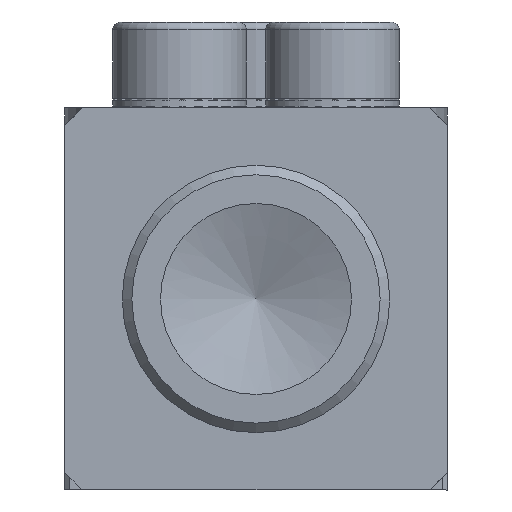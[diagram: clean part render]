
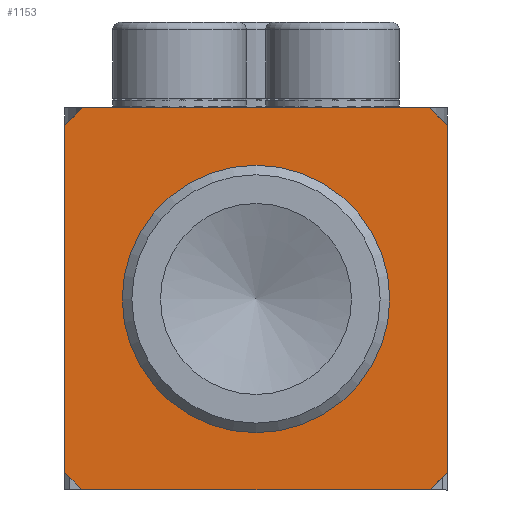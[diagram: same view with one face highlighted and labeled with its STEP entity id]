
A CAD part, left-side view. The second image highlights one B-rep face of the part: STEP entity #1153.
In plain terms, the highlighted planar face has unit normal (-1, 0, 0).
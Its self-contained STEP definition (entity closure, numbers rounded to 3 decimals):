
#1153=ADVANCED_FACE('',(#2059,#2060),#2061,.F.);
#2059=FACE_BOUND('',#2927,.T.);
#2060=FACE_OUTER_BOUND('',#2928,.T.);
#2061=PLANE('',#2929);
#2927=EDGE_LOOP('',(#5430));
#2928=EDGE_LOOP('',(#5431,#5432,#5433,#5434,#5435,#5436,#5437,#5438));
#2929=AXIS2_PLACEMENT_3D('',#5439,#5440,#5441);
#5430=ORIENTED_EDGE('',*,*,#6489,.F.);
#5431=ORIENTED_EDGE('',*,*,#6535,.F.);
#5432=ORIENTED_EDGE('',*,*,#6533,.F.);
#5433=ORIENTED_EDGE('',*,*,#6536,.F.);
#5434=ORIENTED_EDGE('',*,*,#6506,.F.);
#5435=ORIENTED_EDGE('',*,*,#6496,.F.);
#5436=ORIENTED_EDGE('',*,*,#6537,.T.);
#5437=ORIENTED_EDGE('',*,*,#6538,.F.);
#5438=ORIENTED_EDGE('',*,*,#6514,.T.);
#5439=CARTESIAN_POINT('',(0.0,-10.0,10.0));
#5440=DIRECTION('',(1.0,0.0,0.0));
#5441=DIRECTION('',(0.0,0.0,-1.0));
#6489=EDGE_CURVE('',#7973,#7973,#7974,.T.);
#6496=EDGE_CURVE('',#7984,#7978,#7986,.T.);
#6506=EDGE_CURVE('',#7978,#8003,#8004,.T.);
#6514=EDGE_CURVE('',#8009,#8014,#8016,.T.);
#6533=EDGE_CURVE('',#8045,#8043,#8047,.T.);
#6535=EDGE_CURVE('',#8043,#8014,#8049,.T.);
#6536=EDGE_CURVE('',#8003,#8045,#8050,.T.);
#6537=EDGE_CURVE('',#7984,#8051,#8052,.T.);
#6538=EDGE_CURVE('',#8009,#8051,#8053,.T.);
#7973=VERTEX_POINT('',#9948);
#7974=CIRCLE('',#9949,7.0);
#7978=VERTEX_POINT('',#9953);
#7984=VERTEX_POINT('',#9960);
#7986=CIRCLE('',#9963,13.5);
#8003=VERTEX_POINT('',#9997);
#8004=LINE('',#9998,#9999);
#8009=VERTEX_POINT('',#10006);
#8014=VERTEX_POINT('',#10014);
#8016=LINE('',#10017,#10018);
#8043=VERTEX_POINT('',#10052);
#8045=VERTEX_POINT('',#10055);
#8047=LINE('',#10058,#10059);
#8049=CIRCLE('',#10061,13.5);
#8050=CIRCLE('',#10062,13.5);
#8051=VERTEX_POINT('',#10063);
#8052=LINE('',#10064,#10065);
#8053=CIRCLE('',#10066,13.5);
#9948=CARTESIAN_POINT('',(0.0,-7.0,0.0));
#9949=AXIS2_PLACEMENT_3D('',#11264,#11265,#11266);
#9953=CARTESIAN_POINT('',(0.0,-10.0,9.069));
#9960=CARTESIAN_POINT('',(0.0,-9.069,10.0));
#9963=AXIS2_PLACEMENT_3D('',#11275,#11276,#11277);
#9997=CARTESIAN_POINT('',(0.0,-10.0,-9.069));
#9998=CARTESIAN_POINT('',(0.0,-10.0,10.0));
#9999=VECTOR('',#11287,1.0);
#10006=CARTESIAN_POINT('',(0.0,10.0,9.069));
#10014=CARTESIAN_POINT('',(0.0,10.0,-9.069));
#10017=CARTESIAN_POINT('',(0.0,10.0,10.0));
#10018=VECTOR('',#11294,1.0);
#10052=CARTESIAN_POINT('',(0.0,9.069,-10.0));
#10055=CARTESIAN_POINT('',(0.0,-9.069,-10.0));
#10058=CARTESIAN_POINT('',(0.0,-10.0,-10.0));
#10059=VECTOR('',#11322,1.0);
#10061=AXIS2_PLACEMENT_3D('',#11323,#11324,#11325);
#10062=AXIS2_PLACEMENT_3D('',#11326,#11327,#11328);
#10063=CARTESIAN_POINT('',(0.0,9.069,10.0));
#10064=CARTESIAN_POINT('',(0.0,-10.0,10.0));
#10065=VECTOR('',#11329,1.0);
#10066=AXIS2_PLACEMENT_3D('',#11330,#11331,#11332);
#11264=CARTESIAN_POINT('',(0.0,0.0,0.0));
#11265=DIRECTION('',(-1.0,0.0,0.0));
#11266=DIRECTION('',(0.0,-1.0,0.0));
#11275=CARTESIAN_POINT('',(0.0,0.0,0.));
#11276=DIRECTION('',(1.0,0.0,0.0));
#11277=DIRECTION('',(0.0,0.0,-1.0));
#11287=DIRECTION('',(0.0,0.0,-1.0));
#11294=DIRECTION('',(0.0,0.0,-1.0));
#11322=DIRECTION('',(0.0,1.0,0.0));
#11323=CARTESIAN_POINT('',(0.0,0.0,0.));
#11324=DIRECTION('',(1.0,0.0,0.0));
#11325=DIRECTION('',(0.0,0.0,-1.0));
#11326=CARTESIAN_POINT('',(0.0,0.0,0.));
#11327=DIRECTION('',(1.0,0.0,0.0));
#11328=DIRECTION('',(0.0,0.0,-1.0));
#11329=DIRECTION('',(0.0,1.0,0.0));
#11330=CARTESIAN_POINT('',(0.0,0.0,0.));
#11331=DIRECTION('',(1.0,0.0,0.0));
#11332=DIRECTION('',(0.0,0.0,-1.0));
